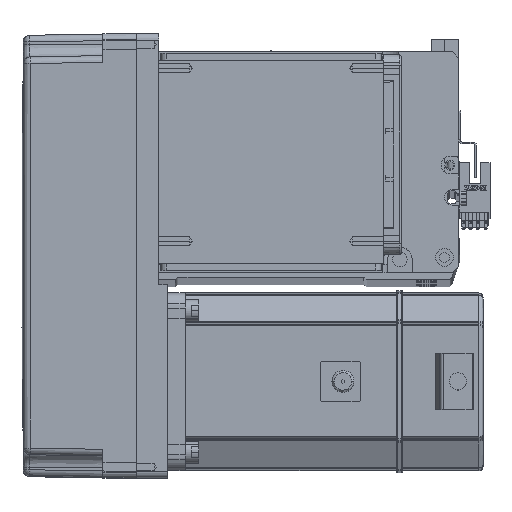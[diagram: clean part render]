
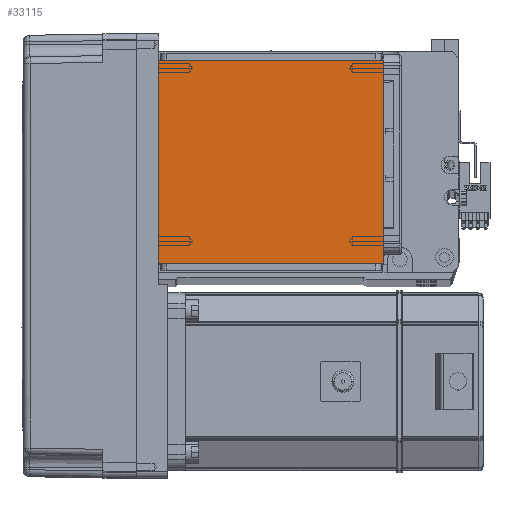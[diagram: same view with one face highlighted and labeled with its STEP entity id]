
A CAD part, top view. The second image highlights one B-rep face of the part: STEP entity #33115.
In plain terms, the highlighted planar face has unit normal (0, 0, 1).
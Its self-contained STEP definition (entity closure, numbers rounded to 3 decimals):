
#252 = VECTOR ( 'NONE', #25156, 1000. ) ;
#5075 = PLANE ( 'NONE',  #45187 ) ;
#5654 = VERTEX_POINT ( 'NONE', #50221 ) ;
#6249 = EDGE_CURVE ( 'NONE', #53763, #31493, #31240, .T. ) ;
#6393 = CARTESIAN_POINT ( 'NONE',  ( 50.5, 122., 115. ) ) ;
#8854 = CARTESIAN_POINT ( 'NONE',  ( 50.5, 111.5, 115. ) ) ;
#9351 = ORIENTED_EDGE ( 'NONE', *, *, #55552, .F. ) ;
#10930 = ORIENTED_EDGE ( 'NONE', *, *, #6249, .T. ) ;
#12137 = LINE ( 'NONE', #49191, #23212 ) ;
#17435 = VERTEX_POINT ( 'NONE', #50373 ) ;
#23212 = VECTOR ( 'NONE', #54168, 1000. ) ;
#23595 = DIRECTION ( 'NONE',  ( 0., 0., 1. ) ) ;
#23892 = ORIENTED_EDGE ( 'NONE', *, *, #30701, .F. ) ;
#24111 = VECTOR ( 'NONE', #56963, 1000. ) ;
#25156 = DIRECTION ( 'NONE',  ( 0., 1., 0. ) ) ;
#28381 = CARTESIAN_POINT ( 'NONE',  ( 0., 0., 115. ) ) ;
#28428 = CARTESIAN_POINT ( 'NONE',  ( -50.5, 122., 115. ) ) ;
#29111 = DIRECTION ( 'NONE',  ( -1., 0., 0. ) ) ;
#30701 = EDGE_CURVE ( 'NONE', #5654, #31493, #12137, .T. ) ;
#31240 = LINE ( 'NONE', #6393, #252 ) ;
#31493 = VERTEX_POINT ( 'NONE', #8854 ) ;
#33102 = DIRECTION ( 'NONE',  ( 1., 0., 0. ) ) ;
#33115 = ADVANCED_FACE ( 'NONE', ( #47366 ), #5075, .T. ) ;
#38030 = LINE ( 'NONE', #57261, #46180 ) ;
#42560 = EDGE_CURVE ( 'NONE', #5654, #17435, #60343, .T. ) ;
#45187 = AXIS2_PLACEMENT_3D ( 'NONE', #28381, #23595, #33102 ) ;
#46180 = VECTOR ( 'NONE', #29111, 1000. ) ;
#47366 = FACE_OUTER_BOUND ( 'NONE', #57293, .T. ) ;
#49191 = CARTESIAN_POINT ( 'NONE',  ( -70.004, 111.5, 115. ) ) ;
#50221 = CARTESIAN_POINT ( 'NONE',  ( -50.5, 111.5, 115. ) ) ;
#50373 = CARTESIAN_POINT ( 'NONE',  ( -50.5, 20., 115. ) ) ;
#53763 = VERTEX_POINT ( 'NONE', #54360 ) ;
#54168 = DIRECTION ( 'NONE',  ( 1., 0., 0. ) ) ;
#54360 = CARTESIAN_POINT ( 'NONE',  ( 50.5, 20., 115. ) ) ;
#55552 = EDGE_CURVE ( 'NONE', #53763, #17435, #38030, .T. ) ;
#56963 = DIRECTION ( 'NONE',  ( 0., -1., 0. ) ) ;
#57261 = CARTESIAN_POINT ( 'NONE',  ( -70.004, 20., 115. ) ) ;
#57293 = EDGE_LOOP ( 'NONE', ( #23892, #59948, #9351, #10930 ) ) ;
#59948 = ORIENTED_EDGE ( 'NONE', *, *, #42560, .T. ) ;
#60343 = LINE ( 'NONE', #28428, #24111 ) ;
